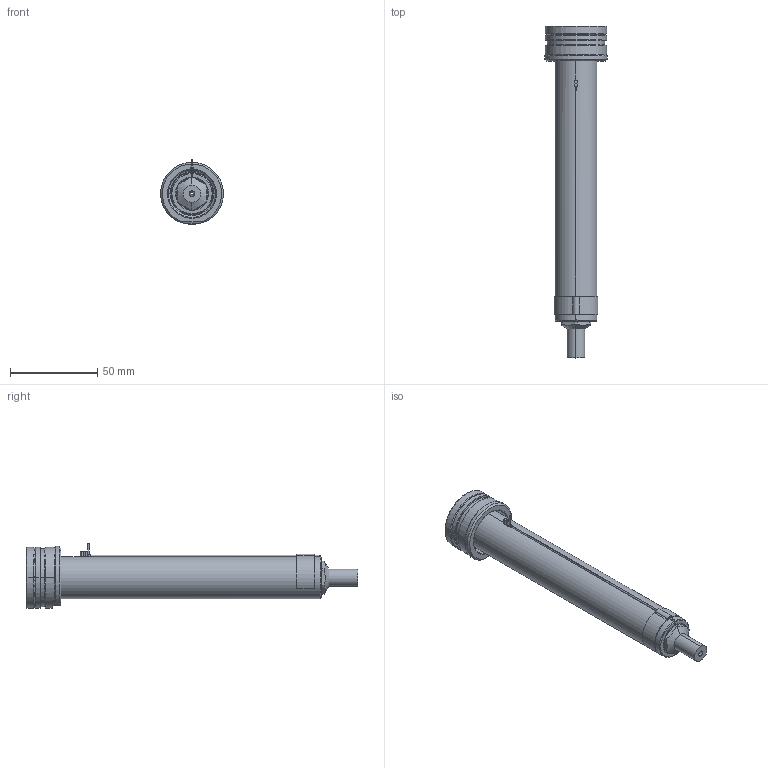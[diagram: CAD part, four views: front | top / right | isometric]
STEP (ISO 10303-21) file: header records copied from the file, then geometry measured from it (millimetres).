
FILE_DESCRIPTION((''),'2;1');
FILE_NAME('EO06_VG-FBE_WR_160_SW','2024-02-19T13:53:06',('sundharh'),(''),'CREO PARAMETRIC BY PTC INC, 2023154','CREO PARAMETRIC BY PTC INC, 2023154','');
FILE_SCHEMA(('CONFIG_CONTROL_DESIGN'));
Length unit declared in the file: millimetre
Products named in the file (1): EO06_VG-FBE_WR_160_SW
Bounding box: 35.93 x 190 x 37 mm (x, y, z)
Volume: 82146.1 mm3; surface area: 23101.4 mm2
Topology: 2 solids, 2 shells, 205 faces, 506 edges, 303 vertices
Faces by surface type: cylinder 76, plane 42, cone 40, torus 29, bspline 16, sphere 2
Entity records: 7050 total; most frequent: CARTESIAN_POINT 2132, DIRECTION 1100, ORIENTED_EDGE 1000, EDGE_CURVE 500, AXIS2_PLACEMENT_3D 465, VERTEX_POINT 303, CIRCLE 276, EDGE_LOOP 219
